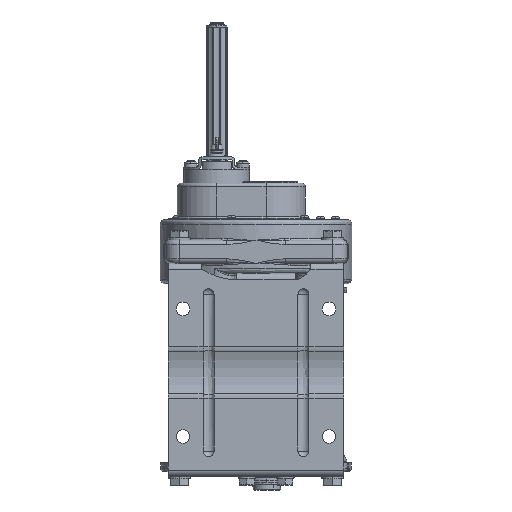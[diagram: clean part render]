
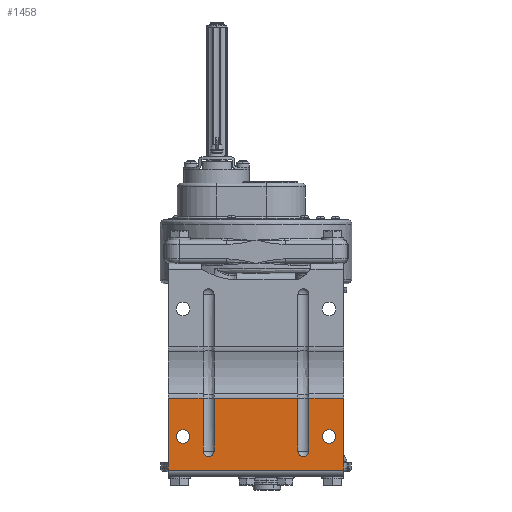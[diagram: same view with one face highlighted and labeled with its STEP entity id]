
A CAD part, front view. The second image highlights one B-rep face of the part: STEP entity #1458.
In plain terms, the highlighted planar face has unit normal (0, -1, 0).
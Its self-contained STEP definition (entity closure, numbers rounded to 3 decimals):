
#1458=ADVANCED_FACE('',(#16274,#16275,#16276),#16273,.T.);
#16273=PLANE('',#40703);
#16274=FACE_OUTER_BOUND('',#40704,.T.);
#16275=FACE_BOUND('',#40705,.T.);
#16276=FACE_BOUND('',#40706,.T.);
#40700=CARTESIAN_POINT('',(11.,-36.383,-259.95));
#40701=DIRECTION('',(0.,-1.,0.));
#40702=DIRECTION('',(0.,0.,1.));
#40703=AXIS2_PLACEMENT_3D('',#40700,#40701,#40702);
#40704=EDGE_LOOP('',(#56193,#56194,#56195,#56196,#56197,#56198,#56199,#56200,#56201,#56202,#56203,#56204));
#40705=EDGE_LOOP('',(#56205,#56206));
#40706=EDGE_LOOP('',(#56207,#56208));
#56193=ORIENTED_EDGE('',*,*,#66593,.F.);
#56194=ORIENTED_EDGE('',*,*,#66594,.F.);
#56195=ORIENTED_EDGE('',*,*,#66595,.T.);
#56196=ORIENTED_EDGE('',*,*,#66596,.T.);
#56197=ORIENTED_EDGE('',*,*,#66517,.F.);
#56198=ORIENTED_EDGE('',*,*,#66519,.T.);
#56199=ORIENTED_EDGE('',*,*,#66514,.T.);
#56200=ORIENTED_EDGE('',*,*,#66597,.T.);
#56201=ORIENTED_EDGE('',*,*,#66512,.F.);
#56202=ORIENTED_EDGE('',*,*,#66509,.F.);
#56203=ORIENTED_EDGE('',*,*,#66511,.T.);
#56204=ORIENTED_EDGE('',*,*,#66598,.T.);
#56205=ORIENTED_EDGE('',*,*,#66599,.F.);
#56206=ORIENTED_EDGE('',*,*,#66600,.F.);
#56207=ORIENTED_EDGE('',*,*,#66601,.F.);
#56208=ORIENTED_EDGE('',*,*,#66602,.F.);
#66509=EDGE_CURVE('',#95084,#95092,#95093,.T.);
#66511=EDGE_CURVE('',#95084,#95105,#95106,.T.);
#66512=EDGE_CURVE('',#95092,#95112,#95113,.T.);
#66514=EDGE_CURVE('',#95125,#95126,#95127,.T.);
#66517=EDGE_CURVE('',#95140,#95147,#95148,.T.);
#66519=EDGE_CURVE('',#95140,#95125,#95160,.T.);
#66593=EDGE_CURVE('',#95658,#95659,#95660,.T.);
#66594=EDGE_CURVE('',#95666,#95658,#95667,.T.);
#66595=EDGE_CURVE('',#95666,#95673,#95674,.T.);
#66596=EDGE_CURVE('',#95673,#95147,#95680,.T.);
#66597=EDGE_CURVE('',#95126,#95112,#95686,.T.);
#66598=EDGE_CURVE('',#95105,#95659,#95692,.T.);
#66599=EDGE_CURVE('',#95698,#95699,#95700,.T.);
#66600=EDGE_CURVE('',#95699,#95698,#95706,.T.);
#66601=EDGE_CURVE('',#95712,#95713,#95714,.T.);
#66602=EDGE_CURVE('',#95713,#95712,#95720,.T.);
#95084=VERTEX_POINT('',#131852);
#95092=VERTEX_POINT('',#131858);
#95093=CIRCLE('',#131862,6.);
#95105=VERTEX_POINT('',#131867);
#95106=LINE('',#131868,#131869);
#95112=VERTEX_POINT('',#131871);
#95113=LINE('',#131872,#131873);
#95125=VERTEX_POINT('',#131879);
#95126=VERTEX_POINT('',#131880);
#95127=LINE('',#131881,#131882);
#95140=VERTEX_POINT('',#131889);
#95147=VERTEX_POINT('',#131894);
#95148=LINE('',#131895,#131896);
#95160=CIRCLE('',#131905,6.);
#95658=VERTEX_POINT('',#132221);
#95659=VERTEX_POINT('',#132222);
#95660=LINE('',#132223,#132224);
#95666=VERTEX_POINT('',#132226);
#95667=LINE('',#132227,#132228);
#95673=VERTEX_POINT('',#132230);
#95674=LINE('',#132231,#132232);
#95680=LINE('',#132234,#132235);
#95686=LINE('',#132237,#132238);
#95692=LINE('',#132240,#132241);
#95698=VERTEX_POINT('',#132243);
#95699=VERTEX_POINT('',#132244);
#95700=CIRCLE('',#132248,7.5);
#95706=CIRCLE('',#132252,7.5);
#95712=VERTEX_POINT('',#132253);
#95713=VERTEX_POINT('',#132254);
#95714=CIRCLE('',#132258,7.5);
#95720=CIRCLE('',#132262,7.5);
#131852=CARTESIAN_POINT('',(-153.,-36.383,-231.302));
#131858=CARTESIAN_POINT('',(-141.,-36.383,-231.302));
#131859=CARTESIAN_POINT('',(-147.,-36.383,-231.302));
#131860=DIRECTION('',(0.,-1.,0.));
#131861=DIRECTION('',(1.,0.,0.));
#131862=AXIS2_PLACEMENT_3D('',#131859,#131860,#131861);
#131867=CARTESIAN_POINT('',(-153.,-36.383,-173.596));
#131868=CARTESIAN_POINT('',(-153.,-36.383,-231.302));
#131869=VECTOR('',#131870,57.706);
#131870=DIRECTION('',(0.,0.,1.));
#131871=CARTESIAN_POINT('',(-141.,-36.383,-173.596));
#131872=CARTESIAN_POINT('',(-141.,-36.383,-231.302));
#131873=VECTOR('',#131874,57.706);
#131874=DIRECTION('',(0.,0.,1.));
#131879=CARTESIAN_POINT('',(-49.,-36.383,-231.302));
#131880=CARTESIAN_POINT('',(-49.,-36.383,-173.596));
#131881=CARTESIAN_POINT('',(-49.,-36.383,-231.302));
#131882=VECTOR('',#131883,57.706);
#131883=DIRECTION('',(0.,0.,1.));
#131889=CARTESIAN_POINT('',(-37.,-36.383,-231.302));
#131894=CARTESIAN_POINT('',(-37.,-36.383,-173.596));
#131895=CARTESIAN_POINT('',(-37.,-36.383,-231.302));
#131896=VECTOR('',#131897,57.706);
#131897=DIRECTION('',(0.,0.,1.));
#131902=CARTESIAN_POINT('',(-43.,-36.383,-231.302));
#131903=DIRECTION('',(0.,1.,0.));
#131904=DIRECTION('',(1.,0.,0.));
#131905=AXIS2_PLACEMENT_3D('',#131902,#131903,#131904);
#132221=CARTESIAN_POINT('',(-191.,-36.383,-252.1));
#132222=CARTESIAN_POINT('',(-191.,-36.383,-173.596));
#132223=CARTESIAN_POINT('',(-191.,-36.383,-252.1));
#132224=VECTOR('',#132225,78.504);
#132225=DIRECTION('',(0.,0.,1.));
#132226=CARTESIAN_POINT('',(1.,-36.383,-252.1));
#132227=CARTESIAN_POINT('',(1.,-36.383,-252.1));
#132228=VECTOR('',#132229,192.);
#132229=DIRECTION('',(-1.,0.,0.));
#132230=CARTESIAN_POINT('',(1.,-36.383,-173.596));
#132231=CARTESIAN_POINT('',(1.,-36.383,-252.1));
#132232=VECTOR('',#132233,78.504);
#132233=DIRECTION('',(0.,0.,1.));
#132234=CARTESIAN_POINT('',(1.,-36.383,-173.596));
#132235=VECTOR('',#132236,38.);
#132236=DIRECTION('',(-1.,0.,0.));
#132237=CARTESIAN_POINT('',(-49.,-36.383,-173.596));
#132238=VECTOR('',#132239,92.);
#132239=DIRECTION('',(-1.,0.,0.));
#132240=CARTESIAN_POINT('',(-153.,-36.383,-173.596));
#132241=VECTOR('',#132242,38.);
#132242=DIRECTION('',(-1.,0.,0.));
#132243=CARTESIAN_POINT('',(-15.,-36.383,-222.9));
#132244=CARTESIAN_POINT('',(-15.,-36.383,-207.9));
#132245=CARTESIAN_POINT('',(-15.,-36.383,-215.4));
#132246=DIRECTION('',(0.,-1.,0.));
#132247=DIRECTION('',(0.,0.,1.));
#132248=AXIS2_PLACEMENT_3D('',#132245,#132246,#132247);
#132249=CARTESIAN_POINT('',(-15.,-36.383,-215.4));
#132250=DIRECTION('',(0.,-1.,0.));
#132251=DIRECTION('',(0.,0.,1.));
#132252=AXIS2_PLACEMENT_3D('',#132249,#132250,#132251);
#132253=CARTESIAN_POINT('',(-175.,-36.383,-222.9));
#132254=CARTESIAN_POINT('',(-175.,-36.383,-207.9));
#132255=CARTESIAN_POINT('',(-175.,-36.383,-215.4));
#132256=DIRECTION('',(0.,-1.,0.));
#132257=DIRECTION('',(0.,0.,1.));
#132258=AXIS2_PLACEMENT_3D('',#132255,#132256,#132257);
#132259=CARTESIAN_POINT('',(-175.,-36.383,-215.4));
#132260=DIRECTION('',(0.,-1.,0.));
#132261=DIRECTION('',(0.,0.,1.));
#132262=AXIS2_PLACEMENT_3D('',#132259,#132260,#132261);
